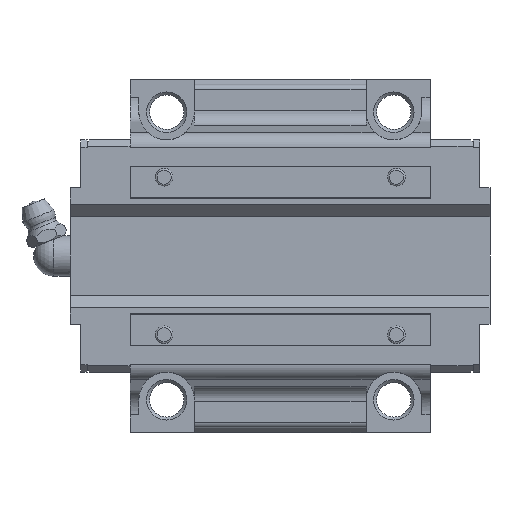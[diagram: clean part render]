
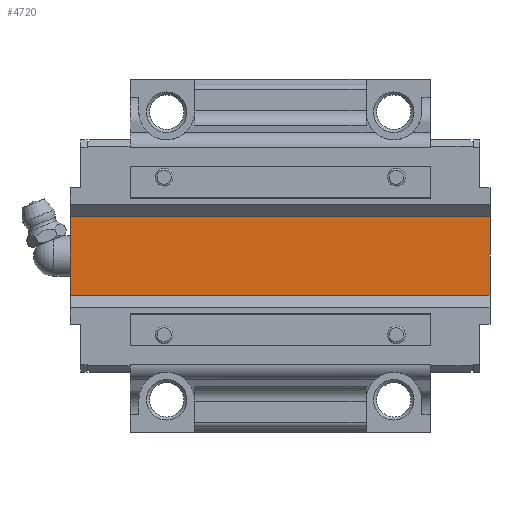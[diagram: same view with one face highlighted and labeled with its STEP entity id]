
A CAD part, front view. The second image highlights one B-rep face of the part: STEP entity #4720.
In plain terms, the highlighted planar face has unit normal (0, -1, 0).
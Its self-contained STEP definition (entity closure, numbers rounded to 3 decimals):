
#1166=ORIENTED_EDGE('',*,*,#1787,.F.);
#1167=ORIENTED_EDGE('',*,*,#2087,.F.);
#1168=ORIENTED_EDGE('',*,*,#1805,.T.);
#1169=ORIENTED_EDGE('',*,*,#2088,.T.);
#1787=EDGE_CURVE('',#2409,#2410,#2888,.T.);
#1805=EDGE_CURVE('',#2427,#2426,#2902,.T.);
#2087=EDGE_CURVE('',#2427,#2409,#3088,.T.);
#2088=EDGE_CURVE('',#2426,#2410,#3089,.T.);
#2409=VERTEX_POINT('',#6969);
#2410=VERTEX_POINT('',#6971);
#2426=VERTEX_POINT('',#7005);
#2427=VERTEX_POINT('',#7007);
#2888=LINE('',#6970,#3366);
#2902=LINE('',#7006,#3380);
#3088=LINE('',#7648,#3566);
#3089=LINE('',#7650,#3567);
#3366=VECTOR('',#5542,1000.);
#3380=VECTOR('',#5566,1000.);
#3566=VECTOR('',#6162,1000.);
#3567=VECTOR('',#6165,1000.);
#3862=EDGE_LOOP('',(#1166,#1167,#1168,#1169));
#4213=FACE_BOUND('',#3862,.T.);
#4488=PLANE('',#5118);
#4720=ADVANCED_FACE('',(#4213),#4488,.T.);
#5118=AXIS2_PLACEMENT_3D('',#7649,#6163,#6164);
#5542=DIRECTION('',(0.,0.,1.));
#5566=DIRECTION('',(0.,0.,1.));
#6162=DIRECTION('',(-1.,0.,0.));
#6163=DIRECTION('',(0.,-1.,0.));
#6164=DIRECTION('',(0.,0.,-1.));
#6165=DIRECTION('',(-1.,0.,0.));
#6969=CARTESIAN_POINT('',(-41.55,16.5,-8.41));
#6970=CARTESIAN_POINT('',(-41.55,16.5,-8.41));
#6971=CARTESIAN_POINT('',(-41.55,16.5,8.41));
#7005=CARTESIAN_POINT('',(41.55,16.5,8.41));
#7006=CARTESIAN_POINT('',(41.55,16.5,-8.41));
#7007=CARTESIAN_POINT('',(41.55,16.5,-8.41));
#7648=CARTESIAN_POINT('',(41.55,16.5,-8.41));
#7649=CARTESIAN_POINT('',(41.55,16.5,-8.41));
#7650=CARTESIAN_POINT('',(41.55,16.5,8.41));
